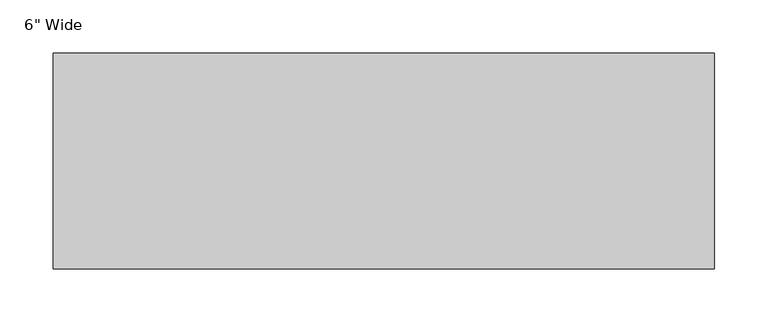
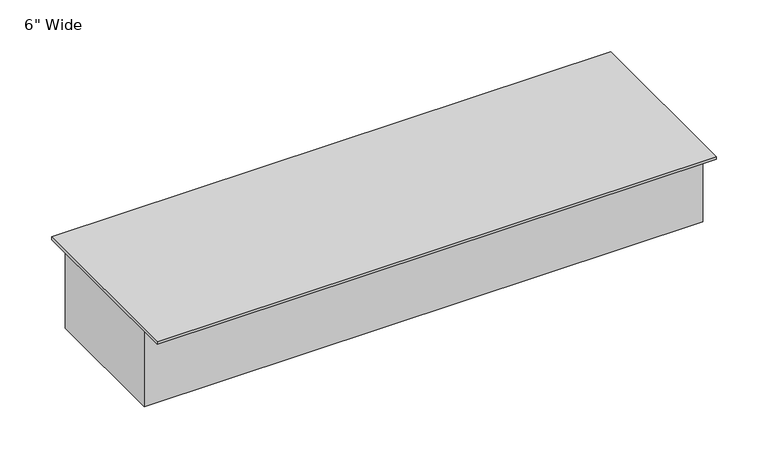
"""IFC4 building model written with IfcOpenShell, lengths in millimetres: proxy geometry."""

from ifc_helpers import new_model, si_unit, frame, origin, place, context, project, spatial, polyline, outline, extrude, source, transform, mapped, element, save


def proxy_f1630dbc(model_context):
    return source(origin(), model_context, "Body", "SweptSolid", [
        extrude(outline(polyline([(622.3, 101.6), (622.3, -101.6), (0.0, -101.6), (0.0, 101.6), (622.3, 101.6)])), frame((0.0, 0.0, -3.175), z_axis=(0.0, 0.0, 1.0), x_axis=(1.0, 0.0, 0.0)), (0.0, 0.0, 1.0), 3.175),
        extrude(outline(polyline([(622.3, 76.2), (622.3, -76.2), (0.0, -76.2), (0.0, 76.2), (622.3, 76.2)])), frame((0.0, 0.0, -92.075), z_axis=(0.0, 0.0, 1.0), x_axis=(1.0, 0.0, 0.0)), (0.0, 0.0, 1.0), 88.9),
    ])


if __name__ == "__main__":
    model = new_model("IFC4")
    model_context = context("Model", 3, world=origin())
    ifc_project = project(units=[si_unit("LENGTHUNIT", "METRE", prefix="MILLI")], contexts=[model_context])
    site = spatial("IfcSite", under=ifc_project)
    building = spatial("IfcBuilding", under=site)
    placement = place(None, origin())
    proxy_shape = proxy_f1630dbc(model_context)
    element("IfcBuildingElementProxy", 1, Name="Duct-Wallduct-Wiremold : 6\" Wide", ObjectType="Duct-Wallduct-Wiremold : 6\" Wide", at=placement, inside=building, context=model_context, shape_type="MappedRepresentation", body=[
        mapped(proxy_shape, transform((0.0, 0.0, 0.0), x_axis=(1.0, 0.0, 0.0), y_axis=(0.0, 1.0, 0.0), z_axis=(0.0, 0.0, 1.0))),
    ])
    save(model, "model.ifc")
